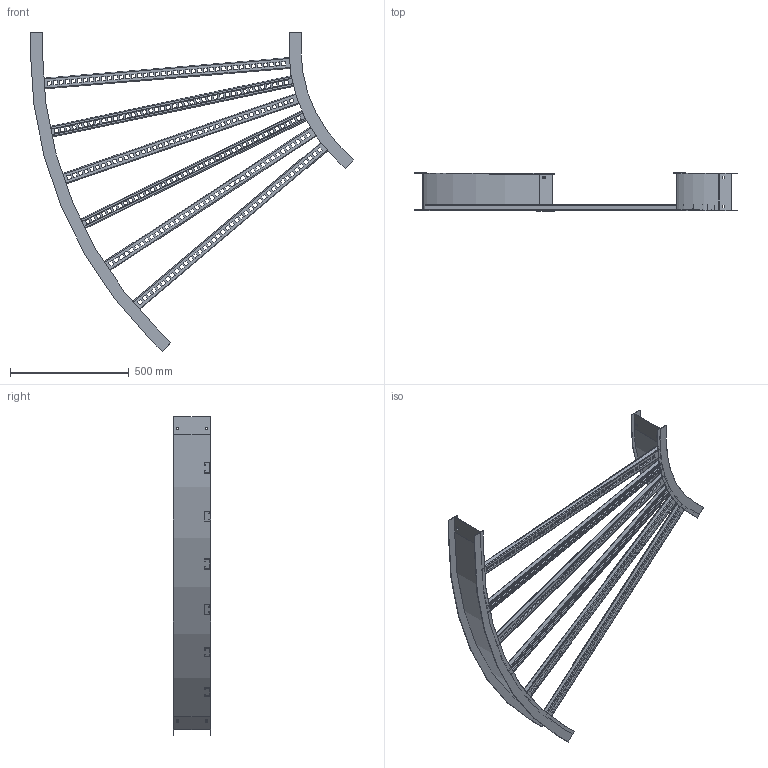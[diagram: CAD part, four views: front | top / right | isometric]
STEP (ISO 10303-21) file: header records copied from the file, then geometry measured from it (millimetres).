
FILE_DESCRIPTION((''),'2;1');
FILE_NAME('AHF642VHB4524_ASM','2010-01-27T',('erouzier'),(''),'PRO/ENGINEER BY PARAMETRIC TECHNOLOGY CORPORATION, 2008510','PRO/ENGINEER BY PARAMETRIC TECHNOLOGY CORPORATION, 2008510','');
FILE_SCHEMA(('CONFIG_CONTROL_DESIGN'));
Length unit declared in the file: inch
Products named in the file (4): CDS001812-6-45-24-I; CDS001812-6-45-66-O; CDS002159L42-P; AHF642VHB4524_ASM
Assembly tree (8 placements, depth 2):
  AHF642VHB4524_ASM
    CDS001812-6-45-24-I
    CDS001812-6-45-66-O
    CDS002159L42-P  x6
Bounding box: 1363.5 x 157.99 x 1343.4 mm (x, y, z)
Volume: 2178145.3 mm3; surface area: 2491645.1 mm2
Topology: 8 solids, 8 shells, 2184 faces, 6504 edges, 4336 vertices
Faces by surface type: plane 1146, cylinder 1038
Entity records: 14902 total; most frequent: CARTESIAN_POINT 2586, ORIENTED_EDGE 2568, DIRECTION 2542, EDGE_CURVE 1284, VECTOR 918, LINE 918, VERTEX_POINT 856, AXIS2_PLACEMENT_3D 812
